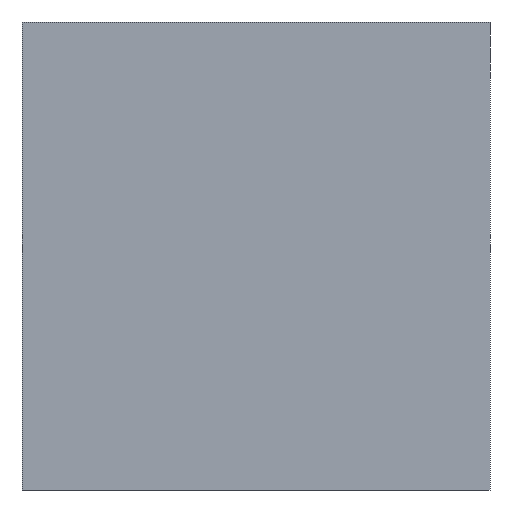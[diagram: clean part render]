
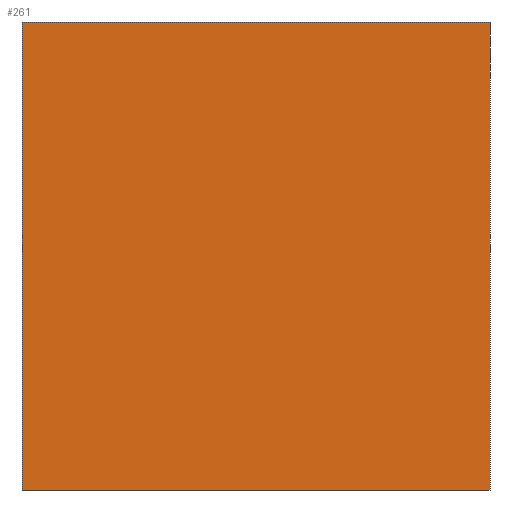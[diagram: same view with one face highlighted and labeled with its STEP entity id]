
A CAD part, left-side view. The second image highlights one B-rep face of the part: STEP entity #261.
In plain terms, the highlighted planar face has unit normal (-1, 0, 0).
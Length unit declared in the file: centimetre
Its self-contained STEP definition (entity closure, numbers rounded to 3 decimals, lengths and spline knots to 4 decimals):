
#22 = VERTEX_POINT ( 'NONE', #138 ) ;
#83 = CARTESIAN_POINT ( 'NONE',  ( 0., 1000., 1000. ) ) ;
#86 = CARTESIAN_POINT ( 'NONE',  ( 0., 1000., 0. ) ) ;
#91 = VECTOR ( 'NONE', #450, 100. ) ;
#109 = CARTESIAN_POINT ( 'NONE',  ( 0., 0., 1000. ) ) ;
#117 = LINE ( 'NONE', #86, #91 ) ;
#124 = EDGE_CURVE ( 'NONE', #394, #402, #202, .T. ) ;
#133 = EDGE_LOOP ( 'NONE', ( #341, #167, #376, #356 ) ) ;
#138 = CARTESIAN_POINT ( 'NONE',  ( 0., 1000., 0. ) ) ;
#150 = DIRECTION ( 'NONE',  ( 0., -1., 0. ) ) ;
#159 = CARTESIAN_POINT ( 'NONE',  ( 0., 1000., 1000. ) ) ;
#167 = ORIENTED_EDGE ( 'NONE', *, *, #124, .F. ) ;
#182 = CARTESIAN_POINT ( 'NONE',  ( 0., 1000., 1000. ) ) ;
#191 = CARTESIAN_POINT ( 'NONE',  ( 0., 1000., 1000. ) ) ;
#196 = LINE ( 'NONE', #159, #374 ) ;
#199 = VERTEX_POINT ( 'NONE', #182 ) ;
#202 = LINE ( 'NONE', #109, #406 ) ;
#247 = DIRECTION ( 'NONE',  ( 0., 0., -1. ) ) ;
#254 = PLANE ( 'NONE',  #300 ) ;
#259 = FACE_OUTER_BOUND ( 'NONE', #133, .T. ) ;
#261 = ADVANCED_FACE ( 'NONE', ( #259 ), #254, .F. ) ;
#294 = DIRECTION ( 'NONE',  ( 1., 0., 0. ) ) ;
#297 = DIRECTION ( 'NONE',  ( 0., 0., -1. ) ) ;
#300 = AXIS2_PLACEMENT_3D ( 'NONE', #83, #294, #409 ) ;
#331 = CARTESIAN_POINT ( 'NONE',  ( 0., 0., 1000. ) ) ;
#341 = ORIENTED_EDGE ( 'NONE', *, *, #460, .T. ) ;
#356 = ORIENTED_EDGE ( 'NONE', *, *, #383, .T. ) ;
#361 = LINE ( 'NONE', #191, #395 ) ;
#366 = CARTESIAN_POINT ( 'NONE',  ( 0., 0., 0. ) ) ;
#374 = VECTOR ( 'NONE', #297, 100. ) ;
#376 = ORIENTED_EDGE ( 'NONE', *, *, #411, .F. ) ;
#383 = EDGE_CURVE ( 'NONE', #199, #22, #196, .T. ) ;
#394 = VERTEX_POINT ( 'NONE', #331 ) ;
#395 = VECTOR ( 'NONE', #150, 100. ) ;
#402 = VERTEX_POINT ( 'NONE', #366 ) ;
#406 = VECTOR ( 'NONE', #247, 100. ) ;
#409 = DIRECTION ( 'NONE',  ( 0., 0., -1. ) ) ;
#411 = EDGE_CURVE ( 'NONE', #199, #394, #361, .T. ) ;
#450 = DIRECTION ( 'NONE',  ( 0., -1., 0. ) ) ;
#460 = EDGE_CURVE ( 'NONE', #22, #402, #117, .T. ) ;
